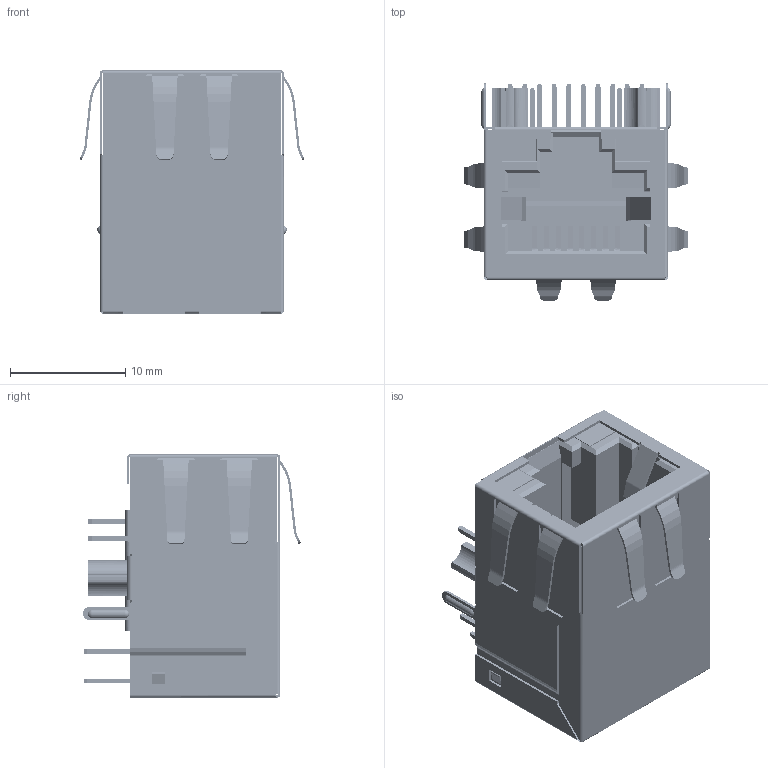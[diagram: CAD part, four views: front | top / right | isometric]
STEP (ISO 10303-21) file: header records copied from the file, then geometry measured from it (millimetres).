
FILE_DESCRIPTION((''),'2;1');
FILE_NAME('ASSEMBLY_04_ASM_1_ASM_1_ASM_1_A_ASM','2020-06-04T13:48:15',('Administrator'),(''),'CREO PARAMETRIC BY PTC INC, 2018400','CREO PARAMETRIC BY PTC INC, 2018400','');
FILE_SCHEMA(('CONFIG_CONTROL_DESIGN'));
Products named in the file (37): JIAZI_04_1_1_1_1_1; JIAZI_04_2_1_1_1_1; JIAZI_04_3_1_1_1_1; JIAZI_04_4_1_1_1_1; JIAZI_04_5_1_1_1_1; JIAZI_04_6_1_1_1_1; JIAZI_04_7_1_1_1_1; JIAZI_04_8_1_1_1_1; JIAZI_04_9_1_1_1_1; JIAZI_04_10_1_1_1_1; JIAZI_04_11_1_1_1_1; JIAZI_04_12_1_1_1_1; JIAZI_04_13_1_1_1_1; JIAZI_04_14_1_1_1_1; JIAZI_04_15_1_1_1_1; JIAZI_04_16_1_1_1_1; JIAZI_04_17_1_1_1_1; JIAZI_04_18_1_1_1_1; JIAZI_04_19_1_1_1_1; JIAZI_04_ASM_1_ASM_1_ASM_1_ASM__ASM; CIZHU_1_1_1_1_1; CIZHU_2_1_1_1_1; CIZHU_3_1_1_1_1; CIZHU_4_1_1_1_1; CIZHU_ASM_1_ASM_1_ASM_1_ASM_1_ASM; DIANLUBAN_04_BODY_1_1_1_1_1; DIANLUBAN_04_BODY_ASM_1_ASM_1_A_ASM; WAIKE_04_01_1_1_1_1_1; WAIKE_04_01_1_1_1_2_1; WAIKE_04_01_1_1_1_3_1; WAIKE_04_01_1_1_1_ASM_1_ASM; TONGKE_04_BODY_ASM_1_ASM_1_ASM__ASM; NEIKE_04__05_1_1_1_1; SULIAOKE_04_BODY_ASM_1_ASM_1_AS_ASM; LED_04_02_1_1_1_1; LED_04_PART_ASM_1_ASM_1_ASM_1_A_ASM; ASSEMBLY_04_ASM_1_ASM_1_ASM_1_A_ASM
Assembly tree (40 placements, depth 4):
  ASSEMBLY_04_ASM_1_ASM_1_ASM_1_A_ASM
    JIAZI_04_ASM_1_ASM_1_ASM_1_ASM__ASM
      JIAZI_04_1_1_1_1_1
      JIAZI_04_2_1_1_1_1
      JIAZI_04_3_1_1_1_1
      JIAZI_04_4_1_1_1_1
      JIAZI_04_5_1_1_1_1
      JIAZI_04_6_1_1_1_1
      JIAZI_04_7_1_1_1_1
      JIAZI_04_8_1_1_1_1
      JIAZI_04_9_1_1_1_1
      JIAZI_04_10_1_1_1_1
      JIAZI_04_11_1_1_1_1
      JIAZI_04_12_1_1_1_1
      JIAZI_04_13_1_1_1_1
      JIAZI_04_14_1_1_1_1
      JIAZI_04_15_1_1_1_1
      JIAZI_04_16_1_1_1_1
      JIAZI_04_17_1_1_1_1
      JIAZI_04_18_1_1_1_1
      JIAZI_04_19_1_1_1_1
    DIANLUBAN_04_BODY_ASM_1_ASM_1_A_ASM
      CIZHU_ASM_1_ASM_1_ASM_1_ASM_1_ASM  x4
        CIZHU_1_1_1_1_1
        CIZHU_2_1_1_1_1
        CIZHU_3_1_1_1_1
        CIZHU_4_1_1_1_1
      DIANLUBAN_04_BODY_1_1_1_1_1
    TONGKE_04_BODY_ASM_1_ASM_1_ASM__ASM
      WAIKE_04_01_1_1_1_ASM_1_ASM
        WAIKE_04_01_1_1_1_1_1
        WAIKE_04_01_1_1_1_2_1
        WAIKE_04_01_1_1_1_3_1
    SULIAOKE_04_BODY_ASM_1_ASM_1_AS_ASM
      NEIKE_04__05_1_1_1_1
    LED_04_PART_ASM_1_ASM_1_ASM_1_A_ASM
      LED_04_02_1_1_1_1  x2
Bounding box: 19.52 x 18.89 x 21.1 mm (x, y, z)
Volume: 2191.1 mm3; surface area: 8097.2 mm2
Topology: 42 solids, 42 shells, 6588 faces, 17042 edges, 10506 vertices
Faces by surface type: torus 4352, plane 1108, cylinder 1076, extrusion 48, sphere 4
Entity records: 90074 total; most frequent: CARTESIAN_POINT 18942, DIRECTION 16112, ORIENTED_EDGE 14512, EDGE_CURVE 7256, AXIS2_PLACEMENT_3D 6307, VERTEX_POINT 4608, CIRCLE 3559, VECTOR 3498
